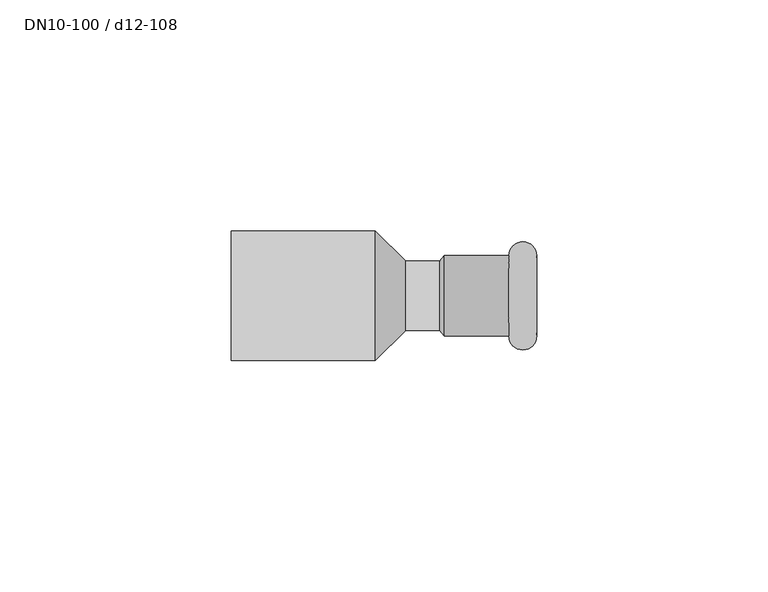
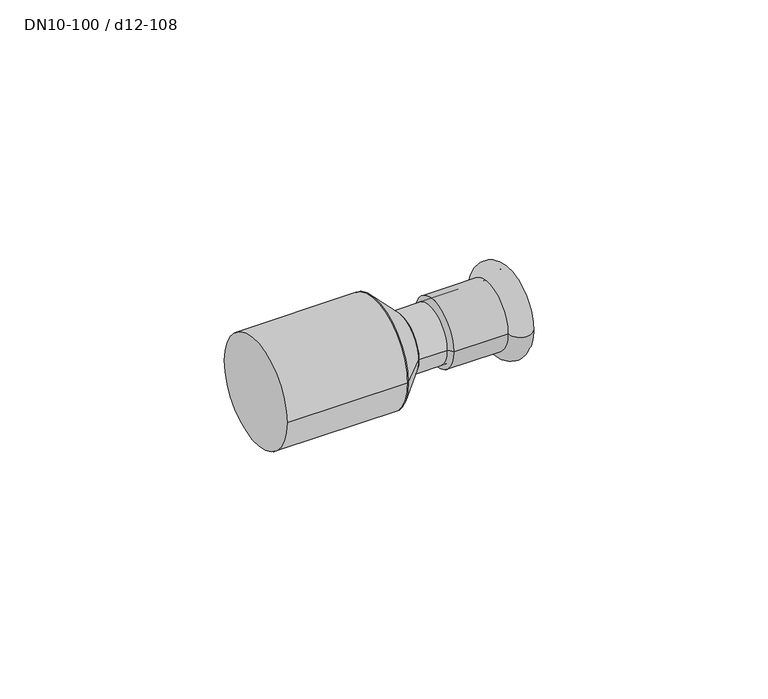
"""IFC4 building model written with IfcOpenShell, lengths in millimetres: pipe fitting geometry, NLRS_50_PIF_UN_Mapress koper verloop met insteekeinde_geb : DN10-100 / d12-108."""

from ifc_helpers import new_model, si_unit, point, frame, origin, origin_2d, place, context, project, spatial, polyline, circle_curve, ellipse_curve, trimmed, segment, composite_curve, outline, extrude, source, transform, mapped, element, save
from ifc_brep_helpers import plane_surface, cylinder_surface, revolved_surface, advanced_brep


def dn10_100_d12_108_a1f77d31(model_context):
    return source(origin(), model_context, "Body", "SolidModel", [
        advanced_brep(
        [(66.0, -8.7, 0.0), (66.0, 8.7, 0.0), (60.0, 8.7, 0.0), (60.0, -8.7, 0.0)],
        [
            (0, 1, circle_curve(frame((66.0, 0.0, 0.0), z_axis=(1.0, 0.0, 0.0), x_axis=(0.0, 1.0, 0.0)), 8.7)),
            (1, 2),
            (2, 3, circle_curve(frame((60.0, 0.0, 0.0), z_axis=(-1.0, 0.0, 0.0), x_axis=(0.0, 1.0, 0.0)), 8.7)),
            (3, 0),
            (1, 0, circle_curve(frame((66.0, 0.0, 0.0), z_axis=(1.0, 0.0, 0.0), x_axis=(0.0, 1.0, 0.0)), 8.7)),
            (3, 2, circle_curve(frame((60.0, 0.0, 0.0), z_axis=(-1.0, 0.0, 0.0), x_axis=(0.0, 1.0, 0.0)), 8.7)),
            (2, 1, circle_curve(frame((63.0, 8.7, 0.0), z_axis=(0.0, 0.0, -1.0), x_axis=(1.0, 0.0, 0.0)), 3.0)),
            (0, 3, circle_curve(frame((63.0, -8.7, 0.0), z_axis=(0.0, 0.0, -1.0), x_axis=(1.0, 0.0, 0.0)), 3.0)),
        ],
        [
            revolved_surface(polyline([(60.0, 8.7, 0.0), (66.0, 8.7, 0.0)]), (46.0, 0.0, 0.0), (-1.0, 0.0, 0.0)),
            revolved_surface(trimmed(ellipse_curve(frame((63.0, 8.7, 0.0), z_axis=(0.0, 0.0, 1.0), x_axis=(1.0, 0.0, 0.0)), 3.0, 3.0), [point((66.0, 8.7, 0.0))], [point((60.0, 8.7, 0.0))], True, "CARTESIAN"), (46.0, 0.0, 0.0), (-1.0, 0.0, 0.0)),
        ],
        [
            (0, [[1, 2, 3, 4]]),
            (0, [[5, -4, 6, -2]]),
            (1, [[-3, 7, -1, 8]]),
            (1, [[-6, -8, -5, -7]]),
        ],
    ),
        advanced_brep(
        [(66.0, -7.5, 0.0), (66.0, 7.5, 0.0), (45.0, 7.5, 0.0), (45.0, -7.5, 0.0), (66.0, -8.7, 0.0), (66.0, 8.7, 0.0), (46.0, -8.7, 0.0), (46.0, 8.7, 0.0)],
        [
            (0, 1, circle_curve(frame((66.0, 0.0, 0.0), z_axis=(1.0, 0.0, 0.0), x_axis=(0.0, 1.0, 0.0)), 7.5)),
            (1, 2),
            (2, 3, circle_curve(frame((45.0, 0.0, 0.0), z_axis=(-1.0, 0.0, 0.0), x_axis=(0.0, 1.0, 0.0)), 7.5)),
            (3, 0),
            (1, 0, circle_curve(frame((66.0, 0.0, 0.0), z_axis=(1.0, 0.0, 0.0), x_axis=(0.0, 1.0, 0.0)), 7.5)),
            (3, 2, circle_curve(frame((45.0, 0.0, 0.0), z_axis=(-1.0, 0.0, 0.0), x_axis=(0.0, 1.0, 0.0)), 7.5)),
            (4, 5, circle_curve(frame((66.0, 0.0, 0.0), z_axis=(1.0, 0.0, 0.0), x_axis=(0.0, 1.0, 0.0)), 8.7)),
            (5, 1),
            (0, 4),
            (5, 4, circle_curve(frame((66.0, 0.0, 0.0), z_axis=(1.0, 0.0, 0.0), x_axis=(0.0, 1.0, 0.0)), 8.7)),
            (6, 7, circle_curve(frame((46.0, 0.0, 0.0), z_axis=(1.0, 0.0, 0.0), x_axis=(0.0, 1.0, 0.0)), 8.7)),
            (7, 5),
            (4, 6),
            (7, 6, circle_curve(frame((46.0, 0.0, 0.0), z_axis=(1.0, 0.0, 0.0), x_axis=(0.0, 1.0, 0.0)), 8.7)),
            (2, 7),
            (6, 3),
        ],
        [
            revolved_surface(polyline([(45.0, 7.5, 0.0), (66.0, 7.5, 0.0)]), (46.0, 0.0, 0.0), (-1.0, 0.0, 0.0)),
            plane_surface(frame((66.0, 0.0, 0.0), z_axis=(1.0, 0.0, 0.0), x_axis=(0.0, 1.0, 0.0))),
            cylinder_surface(frame((46.0, 0.0, 0.0), z_axis=(-1.0, 0.0, 0.0), x_axis=(0.0, 1.0, 0.0)), 8.7),
            revolved_surface(polyline([(46.0, 8.7, 0.0), (45.0, 7.5, 0.0)]), (46.0, 0.0, 0.0), (-1.0, 0.0, 0.0)),
        ],
        [
            (0, [[1, 2, 3, 4]]),
            (0, [[5, -4, 6, -2]]),
            (1, [[7, 8, -1, 9]]),
            (1, [[10, -9, -5, -8]]),
            (2, [[11, 12, -7, 13]]),
            (2, [[14, -13, -10, -12]]),
            (3, [[-3, 15, -11, 16]]),
            (3, [[-6, -16, -14, -15]]),
        ],
    ),
        extrude(outline(composite_curve([segment(trimmed(circle_curve(origin_2d(), 7.5), [point((-7.5, 0.0))], [point((7.5, 0.0))], False, "CARTESIAN"), True, "CONTINUOUS"), segment(trimmed(circle_curve(origin_2d(), 7.5), [point((7.5, 0.0))], [point((-7.5, 0.0))], False, "CARTESIAN"), True, "CONTINUOUS")], self_intersect=False)), frame((37.6549296, 0.0, 0.0), z_axis=(1.0, 0.0, 0.0), x_axis=(0.0, 1.0, 0.0)), (0.0, 0.0, 1.0), 8.3450704),
        advanced_brep(
        [(37.6549296, -7.5, 0.0), (37.6549296, 7.5, 0.0), (31.1549296, -14.0, 0.0), (31.1549296, 14.0, 0.0)],
        [
            (0, 1, circle_curve(frame((37.6549296, 0.0, 0.0), z_axis=(1.0, 0.0, 0.0), x_axis=(0.0, -1.0, 0.0)), 7.5)),
            (1, 0, circle_curve(frame((37.6549296, 0.0, 0.0), z_axis=(1.0, 0.0, 0.0), x_axis=(0.0, 1.0, 0.0)), 7.5)),
            (2, 3, circle_curve(frame((31.1549296, 0.0, 0.0), z_axis=(-1.0, 0.0, 0.0), x_axis=(0.0, 1.0, 0.0)), 14.0)),
            (3, 2, circle_curve(frame((31.1549296, 0.0, 0.0), z_axis=(-1.0, 0.0, 0.0), x_axis=(0.0, -1.0, 0.0)), 14.0)),
            (3, 1),
            (0, 2),
        ],
        [
            plane_surface(frame((37.6549296, 0.0, 0.0), z_axis=(1.0, 0.0, 0.0), x_axis=(0.0, 0.0, -1.0))),
            plane_surface(frame((31.1549296, 0.0, 0.0), z_axis=(-1.0, 0.0, 0.0), x_axis=(0.0, 0.0, -1.0))),
            revolved_surface(polyline([(37.6549296, -7.499999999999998, 0.0), (31.1549296, -14.0, 0.0)]), (45.1549296, 0.0, 0.0), (-1.0, 0.0, 0.0)),
            revolved_surface(polyline([(37.6549296, 7.499999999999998, 0.0), (31.1549296, 14.0, 0.0)]), (45.1549296, 0.0, 0.0), (-1.0, 0.0, 0.0)),
        ],
        [
            (0, [[1, 2]]),
            (1, [[3, 4]]),
            (2, [[-4, 5, -1, 6]]),
            (3, [[-3, -6, -2, -5]]),
        ],
    ),
        extrude(outline(composite_curve([segment(trimmed(circle_curve(origin_2d(), 14.0), [point((-14.0, 0.0))], [point((14.0, 0.0))], False, "CARTESIAN"), True, "CONTINUOUS"), segment(trimmed(circle_curve(origin_2d(), 14.0), [point((14.0, 0.0))], [point((-14.0, 0.0))], False, "CARTESIAN"), True, "CONTINUOUS")], self_intersect=False)), frame((0.0, 0.0, 0.0), z_axis=(1.0, 0.0, 0.0), x_axis=(0.0, 1.0, 0.0)), (0.0, 0.0, 1.0), 31.1549296),
    ])


if __name__ == "__main__":
    model = new_model("IFC4")
    model_context = context("Model", 3, world=origin())
    ifc_project = project(units=[si_unit("LENGTHUNIT", "METRE", prefix="MILLI")], contexts=[model_context])
    site = spatial("IfcSite", under=ifc_project)
    building = spatial("IfcBuilding", under=site)
    placement = place(None, origin())
    dn10_100_d12_108_shape = dn10_100_d12_108_a1f77d31(model_context)
    element("IfcPipeFitting", 1, ObjectType="NLRS_50_PIF_UN_Mapress koper verloop met insteekeinde_geb : DN10-100 / d12-108", at=placement, inside=building, context=model_context, shape_type="MappedRepresentation", body=[
        mapped(dn10_100_d12_108_shape, transform((0.0, 0.0, 0.0), x_axis=(1.0, 0.0, 0.0), y_axis=(0.0, 1.0, 0.0), z_axis=(0.0, 0.0, 1.0))),
    ])
    save(model, "model.ifc")
